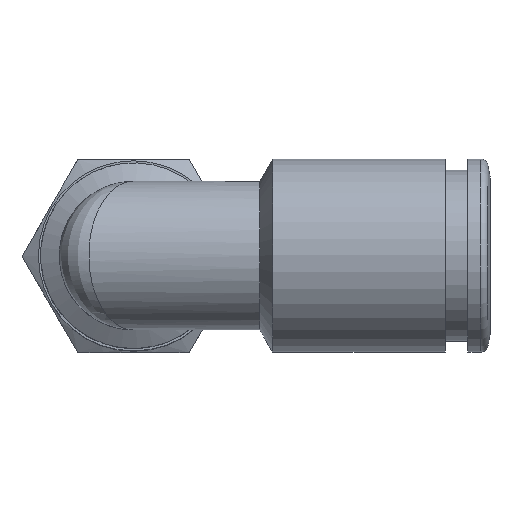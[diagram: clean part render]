
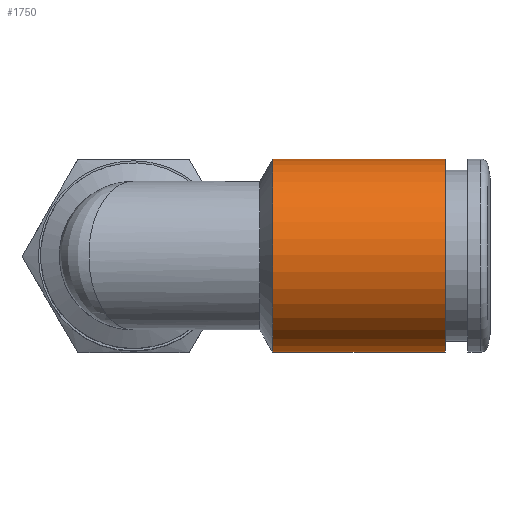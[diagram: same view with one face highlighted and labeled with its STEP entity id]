
A CAD part, top view. The second image highlights one B-rep face of the part: STEP entity #1750.
In plain terms, the highlighted cylindrical face has radius 6.5 mm (diameter 13 mm), a full revolution.
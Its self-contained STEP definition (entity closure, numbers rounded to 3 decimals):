
#1750=ADVANCED_FACE('', (#1760,#1770), #1780, .T.);
#5830=AXIS2_PLACEMENT_3D('Ax2Pl3d', #5840, #5850, #5860);
#6790=AXIS2_PLACEMENT_3D('Ax2Pl3d', #6800, #6810, #6820);
#6830=AXIS2_PLACEMENT_3D('Ax2Pl3d', #6840, #6850, #6860);
#5840=CARTESIAN_POINT('HicPkt', (31.688,8.803,
26.032));
#25070=CARTESIAN_POINT('', (31.688,8.803,32.532));
#6800=CARTESIAN_POINT('HicPkt', (20.054,8.803,
26.032));
#25210=CARTESIAN_POINT('', (20.054,8.803,32.532));
#6840=CARTESIAN_POINT('HicPkt', (20.054,8.803,
26.032));
#26020=CIRCLE('Circle', #5830, 6.5);
#26120=CIRCLE('Circle', #6790, 6.5);
#1780=CYLINDRICAL_SURFACE('Zyl', #6830, 6.5);
#5850=DIRECTION('Axis', (-1.,0.,0.))
;
#5860=DIRECTION('RefDirection', (0.,
0.,-1.));
#6810=DIRECTION('Axis', (-1.,0.,0.))
;
#6820=DIRECTION('RefDirection', (0.,
0.,-1.));
#6850=DIRECTION('Axis', (1.,0.,0.));
#6860=DIRECTION('RefDirection', (0.,0.,-1.));
#30440=EDGE_CURVE('', #30450, #30450, #26020, .T.);
#30820=EDGE_CURVE('', #30830, #30830, #26120, .T.);
#33750=EDGE_LOOP('Edge_loop', (#33760));
#33770=EDGE_LOOP('Edge_loop', (#33780));
#1770=FACE_BOUND('', #33770, .T.);
#1760=FACE_OUTER_BOUND('Face_outer_bound', #33750, .T.);
#33760=ORIENTED_EDGE('', *, *, #30440, .T.);
#33780=ORIENTED_EDGE('', *, *, #30820, .F.);
#30450=VERTEX_POINT('', #25070);
#30830=VERTEX_POINT('', #25210);
